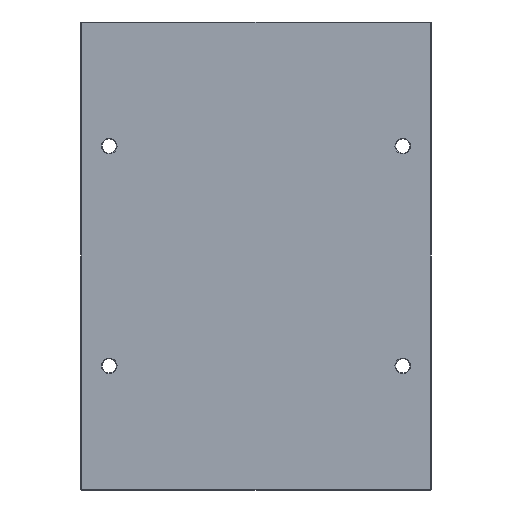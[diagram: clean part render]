
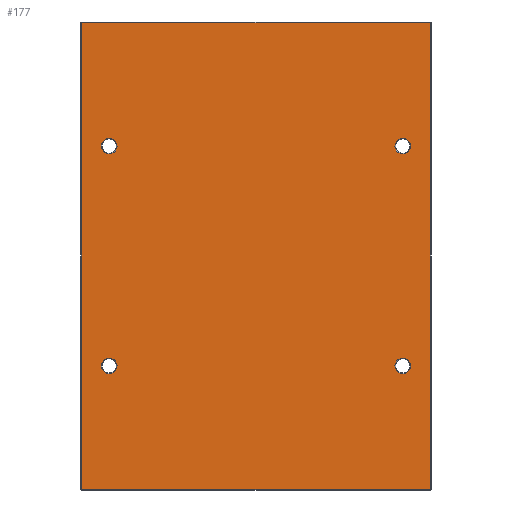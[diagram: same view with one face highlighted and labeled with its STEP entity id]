
A CAD part, front view. The second image highlights one B-rep face of the part: STEP entity #177.
In plain terms, the highlighted planar face has unit normal (0, -1, 0).
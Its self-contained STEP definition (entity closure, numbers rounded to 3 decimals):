
#6 = ORIENTED_EDGE ( 'NONE', *, *, #979, .T. ) ;
#67 = CIRCLE ( 'NONE', #1003, 10. ) ;
#68 = DIRECTION ( 'NONE',  ( 0., 0., 1. ) ) ;
#74 = EDGE_CURVE ( 'NONE', #535, #563, #1559, .T. ) ;
#77 = FACE_BOUND ( 'NONE', #383, .T. ) ;
#98 = CARTESIAN_POINT ( 'NONE',  ( 187., 0., -130. ) ) ;
#109 = LINE ( 'NONE', #1063, #762 ) ;
#121 = EDGE_CURVE ( 'NONE', #198, #535, #109, .T. ) ;
#152 = DIRECTION ( 'NONE',  ( 0., 1., 0. ) ) ;
#166 = CARTESIAN_POINT ( 'NONE',  ( 187., 0., 130. ) ) ;
#167 = DIRECTION ( 'NONE',  ( 0., 1., 0. ) ) ;
#177 = ADVANCED_FACE ( 'NONE', ( #77, #1066, #1372, #1030, #683 ), #531, .F. ) ;
#196 = EDGE_LOOP ( 'NONE', ( #347, #424 ) ) ;
#198 = VERTEX_POINT ( 'NONE', #759 ) ;
#215 = CIRCLE ( 'NONE', #525, 10. ) ;
#219 = VERTEX_POINT ( 'NONE', #913 ) ;
#224 = ORIENTED_EDGE ( 'NONE', *, *, #594, .T. ) ;
#230 = LINE ( 'NONE', #788, #1569 ) ;
#239 = EDGE_CURVE ( 'NONE', #587, #1163, #955, .T. ) ;
#241 = DIRECTION ( 'NONE',  ( -1., 0., 0. ) ) ;
#297 = ORIENTED_EDGE ( 'NONE', *, *, #1316, .T. ) ;
#347 = ORIENTED_EDGE ( 'NONE', *, *, #1282, .T. ) ;
#349 = EDGE_CURVE ( 'NONE', #726, #649, #1248, .T. ) ;
#383 = EDGE_LOOP ( 'NONE', ( #832, #578 ) ) ;
#424 = ORIENTED_EDGE ( 'NONE', *, *, #349, .T. ) ;
#469 = CARTESIAN_POINT ( 'NONE',  ( -222., 0., 297. ) ) ;
#487 = VECTOR ( 'NONE', #1331, 1000. ) ;
#491 = ORIENTED_EDGE ( 'NONE', *, *, #74, .T. ) ;
#499 = CIRCLE ( 'NONE', #828, 10. ) ;
#525 = AXIS2_PLACEMENT_3D ( 'NONE', #978, #1103, #68 ) ;
#526 = CARTESIAN_POINT ( 'NONE',  ( 0., 0., 0. ) ) ;
#531 = PLANE ( 'NONE',  #1325 ) ;
#535 = VERTEX_POINT ( 'NONE', #900 ) ;
#554 = CARTESIAN_POINT ( 'NONE',  ( 222., 0., 0. ) ) ;
#563 = VERTEX_POINT ( 'NONE', #758 ) ;
#572 = LINE ( 'NONE', #1201, #1224 ) ;
#578 = ORIENTED_EDGE ( 'NONE', *, *, #1514, .T. ) ;
#580 = DIRECTION ( 'NONE',  ( 0., 0., 1. ) ) ;
#587 = VERTEX_POINT ( 'NONE', #1005 ) ;
#594 = EDGE_CURVE ( 'NONE', #563, #786, #572, .T. ) ;
#628 = EDGE_LOOP ( 'NONE', ( #1272, #1256 ) ) ;
#630 = CIRCLE ( 'NONE', #1499, 10. ) ;
#649 = VERTEX_POINT ( 'NONE', #166 ) ;
#662 = CARTESIAN_POINT ( 'NONE',  ( -187., 0., -140. ) ) ;
#678 = AXIS2_PLACEMENT_3D ( 'NONE', #923, #1175, #1179 ) ;
#683 = FACE_OUTER_BOUND ( 'NONE', #687, .T. ) ;
#687 = EDGE_LOOP ( 'NONE', ( #491, #224, #1442, #1095 ) ) ;
#693 = CIRCLE ( 'NONE', #943, 10. ) ;
#720 = AXIS2_PLACEMENT_3D ( 'NONE', #779, #1292, #1422 ) ;
#726 = VERTEX_POINT ( 'NONE', #991 ) ;
#731 = CIRCLE ( 'NONE', #678, 10. ) ;
#753 = CARTESIAN_POINT ( 'NONE',  ( -187., 0., 140. ) ) ;
#755 = CARTESIAN_POINT ( 'NONE',  ( -187., 0., -130. ) ) ;
#758 = CARTESIAN_POINT ( 'NONE',  ( 222., 0., 297. ) ) ;
#759 = CARTESIAN_POINT ( 'NONE',  ( -222., 0., -297. ) ) ;
#762 = VECTOR ( 'NONE', #1324, 1000. ) ;
#779 = CARTESIAN_POINT ( 'NONE',  ( 187., 0., 140. ) ) ;
#781 = DIRECTION ( 'NONE',  ( 0., 0., -1. ) ) ;
#786 = VERTEX_POINT ( 'NONE', #469 ) ;
#787 = CARTESIAN_POINT ( 'NONE',  ( -187., 0., 130. ) ) ;
#788 = CARTESIAN_POINT ( 'NONE',  ( -222., 0., 0. ) ) ;
#796 = DIRECTION ( 'NONE',  ( 0., 1., 0. ) ) ;
#826 = VERTEX_POINT ( 'NONE', #755 ) ;
#827 = VERTEX_POINT ( 'NONE', #1296 ) ;
#828 = AXIS2_PLACEMENT_3D ( 'NONE', #753, #796, #878 ) ;
#832 = ORIENTED_EDGE ( 'NONE', *, *, #239, .T. ) ;
#878 = DIRECTION ( 'NONE',  ( 0., 0., 1. ) ) ;
#881 = EDGE_CURVE ( 'NONE', #219, #1458, #499, .T. ) ;
#900 = CARTESIAN_POINT ( 'NONE',  ( 222., 0., -297. ) ) ;
#913 = CARTESIAN_POINT ( 'NONE',  ( -187., 0., 150. ) ) ;
#923 = CARTESIAN_POINT ( 'NONE',  ( 187., 0., 140. ) ) ;
#941 = CARTESIAN_POINT ( 'NONE',  ( 187., 0., -140. ) ) ;
#943 = AXIS2_PLACEMENT_3D ( 'NONE', #662, #1047, #580 ) ;
#955 = CIRCLE ( 'NONE', #1578, 10. ) ;
#963 = CARTESIAN_POINT ( 'NONE',  ( -187., 0., 140. ) ) ;
#975 = EDGE_LOOP ( 'NONE', ( #6, #297 ) ) ;
#978 = CARTESIAN_POINT ( 'NONE',  ( -187., 0., -140. ) ) ;
#979 = EDGE_CURVE ( 'NONE', #827, #826, #215, .T. ) ;
#991 = CARTESIAN_POINT ( 'NONE',  ( 187., 0., 150. ) ) ;
#1003 = AXIS2_PLACEMENT_3D ( 'NONE', #941, #152, #1061 ) ;
#1005 = CARTESIAN_POINT ( 'NONE',  ( 187., 0., -150. ) ) ;
#1030 = FACE_BOUND ( 'NONE', #975, .T. ) ;
#1047 = DIRECTION ( 'NONE',  ( 0., 1., 0. ) ) ;
#1061 = DIRECTION ( 'NONE',  ( 0., 0., 1. ) ) ;
#1063 = CARTESIAN_POINT ( 'NONE',  ( 0., 0., -297. ) ) ;
#1066 = FACE_BOUND ( 'NONE', #196, .T. ) ;
#1085 = DIRECTION ( 'NONE',  ( 0., 0., 1. ) ) ;
#1095 = ORIENTED_EDGE ( 'NONE', *, *, #121, .T. ) ;
#1103 = DIRECTION ( 'NONE',  ( 0., 1., 0. ) ) ;
#1163 = VERTEX_POINT ( 'NONE', #98 ) ;
#1175 = DIRECTION ( 'NONE',  ( 0., 1., 0. ) ) ;
#1179 = DIRECTION ( 'NONE',  ( 0., 0., 1. ) ) ;
#1193 = EDGE_CURVE ( 'NONE', #786, #198, #230, .T. ) ;
#1201 = CARTESIAN_POINT ( 'NONE',  ( 0., 0., 297. ) ) ;
#1224 = VECTOR ( 'NONE', #241, 1000. ) ;
#1248 = CIRCLE ( 'NONE', #720, 10. ) ;
#1256 = ORIENTED_EDGE ( 'NONE', *, *, #881, .T. ) ;
#1272 = ORIENTED_EDGE ( 'NONE', *, *, #1603, .T. ) ;
#1282 = EDGE_CURVE ( 'NONE', #649, #726, #731, .T. ) ;
#1292 = DIRECTION ( 'NONE',  ( 0., 1., 0. ) ) ;
#1296 = CARTESIAN_POINT ( 'NONE',  ( -187., 0., -150. ) ) ;
#1306 = DIRECTION ( 'NONE',  ( 0., 0., 1. ) ) ;
#1316 = EDGE_CURVE ( 'NONE', #826, #827, #693, .T. ) ;
#1324 = DIRECTION ( 'NONE',  ( 1., 0., 0. ) ) ;
#1325 = AXIS2_PLACEMENT_3D ( 'NONE', #526, #1432, #1306 ) ;
#1331 = DIRECTION ( 'NONE',  ( 0., 0., 1. ) ) ;
#1372 = FACE_BOUND ( 'NONE', #628, .T. ) ;
#1421 = CARTESIAN_POINT ( 'NONE',  ( 187., 0., -140. ) ) ;
#1422 = DIRECTION ( 'NONE',  ( 0., 0., 1. ) ) ;
#1432 = DIRECTION ( 'NONE',  ( 0., 1., 0. ) ) ;
#1442 = ORIENTED_EDGE ( 'NONE', *, *, #1193, .T. ) ;
#1458 = VERTEX_POINT ( 'NONE', #787 ) ;
#1499 = AXIS2_PLACEMENT_3D ( 'NONE', #963, #167, #1085 ) ;
#1500 = DIRECTION ( 'NONE',  ( 0., 1., 0. ) ) ;
#1507 = DIRECTION ( 'NONE',  ( 0., 0., 1. ) ) ;
#1514 = EDGE_CURVE ( 'NONE', #1163, #587, #67, .T. ) ;
#1559 = LINE ( 'NONE', #554, #487 ) ;
#1569 = VECTOR ( 'NONE', #781, 1000. ) ;
#1578 = AXIS2_PLACEMENT_3D ( 'NONE', #1421, #1500, #1507 ) ;
#1603 = EDGE_CURVE ( 'NONE', #1458, #219, #630, .T. ) ;
